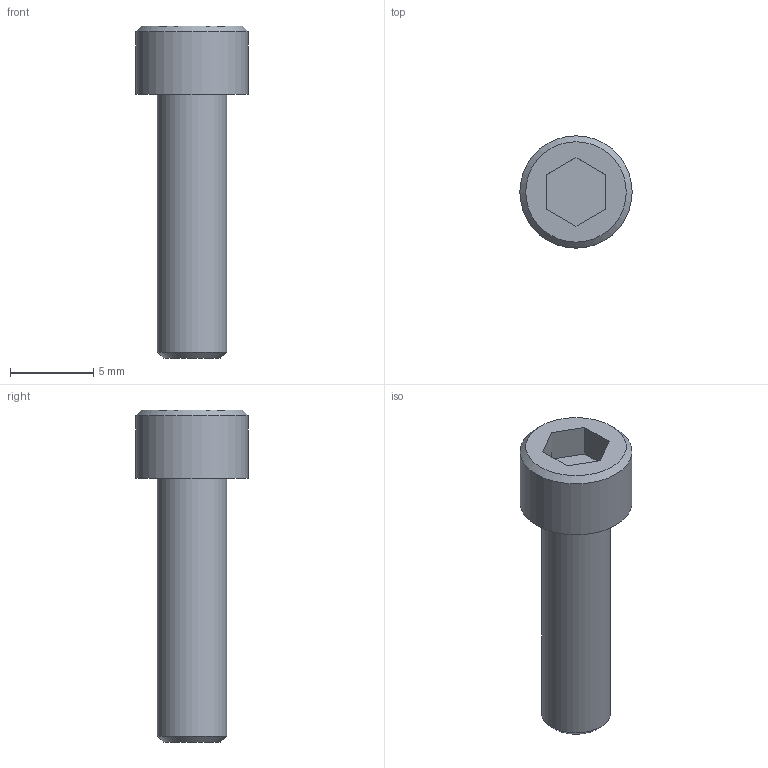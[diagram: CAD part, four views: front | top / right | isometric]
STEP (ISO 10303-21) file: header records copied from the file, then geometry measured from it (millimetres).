
FILE_DESCRIPTION((''),'2;1');
FILE_NAME('C:\Users\Stan\Desktop\import\SHCS 8-32 UNCx0.625.ipt.step','2011-08-18T17:45:29',(''),(''),'Autodesk Inventor 2012','Autodesk Inventor 2012','');
FILE_SCHEMA(('AUTOMOTIVE_DESIGN { 1 0 10303 214 1 1 1 1 }'));
Length unit declared in the file: inch
Products named in the file (1): SHCS 8-32 UNCx0.625
Bounding box: 6.76 x 6.76 x 19.99 mm (x, y, z)
Volume: 340.1 mm3; surface area: 383.6 mm2
Topology: 1 solids, 1 shells, 14 faces, 28 edges, 18 vertices
Faces by surface type: plane 10, cone 2, cylinder 2
Full cylindrical faces by diameter (mm): 4.166 x1, 6.756 x1
Entity records: 391 total; most frequent: DIRECTION 60, CARTESIAN_POINT 57, ORIENTED_EDGE 48, EDGE_CURVE 24, AXIS2_PLACEMENT_3D 21, EDGE_LOOP 20, VERTEX_POINT 18, VECTOR 18
